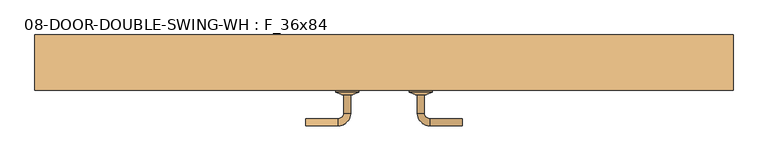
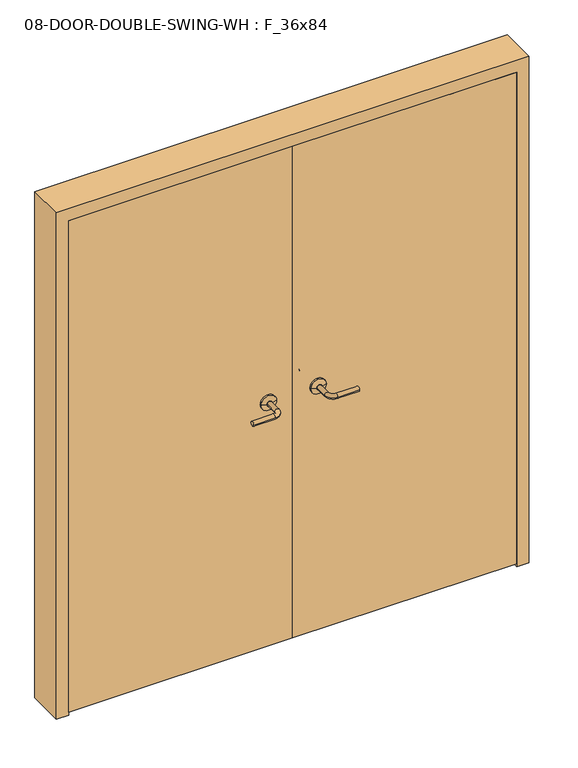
"""IFC4 building model written with IfcOpenShell, lengths in millimetres: door geometry, 08-DOOR-DOUBLE-SWING-WH : F_36x84."""

from ifc_helpers import new_model, si_unit, point, frame, origin, place, context, project, spatial, polyline, circle_curve, ellipse_curve, trimmed, outline, extrude, source, transform, mapped, element, save
from ifc_brep_helpers import plane_surface, cylinder_surface, revolved_surface, advanced_brep


def door_08_door_double_swing_wh_f_36x84_ce0bac59(model_context):
    return source(origin(), model_context, "Body", "SolidModel", [
        advanced_brep(
        [(129.4903202, -19.05, 1066.8), (110.4403202, -19.05, 1066.8), (110.4403202, 31.75, 1066.8), (129.4903202, 31.75, 1066.8), (145.3653202, 47.625, 1066.8), (145.3653202, 66.675, 1066.8), (234.2653202, 47.625, 1066.8), (234.2653202, 66.675, 1066.8)],
        [
            (0, 1, circle_curve(frame((119.9653202, -19.05, 1066.8), z_axis=(0.0, -1.0, 0.0), x_axis=(-1.0, 0.0, 0.0)), 9.525)),
            (1, 0, circle_curve(frame((119.9653202, -19.05, 1066.8), z_axis=(0.0, -1.0, 0.0), x_axis=(-1.0, 0.0, 0.0)), 9.525)),
            (1, 2),
            (2, 3, circle_curve(frame((119.9653202, 31.75, 1066.8), z_axis=(0.0, -1.0, 0.0), x_axis=(-1.0, 0.0, 0.0)), 9.525)),
            (3, 0),
            (3, 2, circle_curve(frame((119.9653202, 31.75, 1066.8), z_axis=(0.0, -1.0, 0.0), x_axis=(-1.0, 0.0, 0.0)), 9.525)),
            (4, 3, circle_curve(frame((145.3653202, 31.75, 1066.8), z_axis=(0.0, 0.0, 1.0), x_axis=(-1.0, 0.0, 0.0)), 15.875)),
            (2, 5, circle_curve(frame((145.3653202, 31.75, 1066.8), z_axis=(0.0, 0.0, -1.0), x_axis=(-1.0, 0.0, 0.0)), 34.925)),
            (5, 4, circle_curve(frame((145.3653202, 57.15, 1066.8), z_axis=(-1.0, 0.0, 0.0), x_axis=(0.0, 1.0, 0.0)), 9.525)),
            (4, 5, circle_curve(frame((145.3653202, 57.15, 1066.8), z_axis=(-1.0, 0.0, 0.0), x_axis=(0.0, 1.0, 0.0)), 9.525)),
            (6, 7, circle_curve(frame((234.2653202, 57.15, 1066.8), z_axis=(1.0, 0.0, 0.0), x_axis=(0.0, 1.0, 0.0)), 9.525)),
            (7, 6, circle_curve(frame((234.2653202, 57.15, 1066.8), z_axis=(1.0, 0.0, 0.0), x_axis=(0.0, 1.0, 0.0)), 9.525)),
            (5, 7),
            (6, 4),
        ],
        [
            plane_surface(frame((119.9653202, -19.05, 1066.8), z_axis=(0.0, -1.0, 0.0), x_axis=(0.0, 0.0, 1.0))),
            cylinder_surface(frame((119.9653202, -19.05, 1066.8), z_axis=(0.0, -1.0, 0.0), x_axis=(-1.0, 0.0, 0.0)), 9.525),
            revolved_surface(trimmed(ellipse_curve(frame((119.9653202, 31.75, 1066.8), z_axis=(0.0, -1.0, 0.0), x_axis=(-1.0, 0.0, 0.0)), 9.525, 9.525), [point((110.4403202, 31.75, 1066.8))], [point((129.4903202, 31.75, 1066.8))], True, "CARTESIAN"), (145.3653202, 31.75, 1066.8), (0.0, 0.0, -1.0)),
            revolved_surface(trimmed(ellipse_curve(frame((119.9653202, 31.75, 1066.8), z_axis=(0.0, -1.0, 0.0), x_axis=(-1.0, 0.0, 0.0)), 9.525, 9.525), [point((129.4903202, 31.75, 1066.8))], [point((110.4403202, 31.75, 1066.8))], True, "CARTESIAN"), (145.3653202, 31.75, 1066.8), (0.0, 0.0, -1.0)),
            plane_surface(frame((234.2653202, 57.15, 1066.8), z_axis=(1.0, 0.0, 0.0), x_axis=(0.0, 0.0, 1.0))),
            cylinder_surface(frame((145.3653202, 57.15, 1066.8), z_axis=(-1.0, 0.0, 0.0), x_axis=(0.0, 1.0, 0.0)), 9.525),
        ],
        [
            (0, [[1, 2]]),
            (1, [[-2, 3, 4, 5]]),
            (1, [[-1, -5, 6, -3]]),
            (2, [[7, -4, 8, 9]]),
            (3, [[-8, -6, -7, 10]]),
            (4, [[11, 12]]),
            (5, [[-9, 13, -11, 14]]),
            (5, [[-10, -14, -12, -13]]),
        ],
    ),
        advanced_brep(
        [(119.9653202, -31.75, 1066.8), (88.2153202, -31.75, 1066.8), (151.7153202, -31.75, 1066.8), (88.2153202, -25.4, 1066.8), (151.7153202, -25.4, 1066.8), (107.2653202, -19.05, 1066.8), (132.6653202, -19.05, 1066.8), (119.9653202, -19.05, 1066.8)],
        [
            (0, 1),
            (1, 2, circle_curve(frame((119.9653202, -31.75, 1066.8), z_axis=(0.0, -1.0, 0.0), x_axis=(-1.0, 0.0, 0.0)), 31.75)),
            (2, 0),
            (2, 1, circle_curve(frame((119.9653202, -31.75, 1066.8), z_axis=(0.0, -1.0, 0.0), x_axis=(-1.0, 0.0, 0.0)), 31.75)),
            (1, 3),
            (3, 4, circle_curve(frame((119.9653202, -25.4, 1066.8), z_axis=(0.0, -1.0, 0.0), x_axis=(-1.0, 0.0, 0.0)), 31.75)),
            (4, 2),
            (4, 3, circle_curve(frame((119.9653202, -25.4, 1066.8), z_axis=(0.0, -1.0, 0.0), x_axis=(-1.0, 0.0, 0.0)), 31.75)),
            (3, 5),
            (5, 6, circle_curve(frame((119.9653202, -19.05, 1066.8), z_axis=(0.0, -1.0, 0.0), x_axis=(-1.0, 0.0, 0.0)), 12.7)),
            (6, 4),
            (6, 5, circle_curve(frame((119.9653202, -19.05, 1066.8), z_axis=(0.0, -1.0, 0.0), x_axis=(-1.0, 0.0, 0.0)), 12.7)),
            (5, 7),
            (7, 6),
        ],
        [
            plane_surface(frame((119.9653202, -31.75, 1066.8), z_axis=(0.0, -1.0, 0.0), x_axis=(-1.0, 0.0, 0.0))),
            cylinder_surface(frame((119.9653202, -22.1418504, 1066.8), z_axis=(0.0, -1.0, 0.0), x_axis=(-1.0, 0.0, 0.0)), 31.75),
            revolved_surface(polyline([(107.2653202, -19.05, 1066.8), (88.2153202, -25.4, 1066.8)]), (119.9653202, -22.1418504, 1066.8), (0.0, -1.0, 0.0)),
            plane_surface(frame((119.9653202, -19.05, 1066.8), z_axis=(0.0, 1.0, 0.0), x_axis=(-1.0, 0.0, 0.0))),
        ],
        [
            (0, [[1, 2, 3]]),
            (0, [[-3, 4, -1]]),
            (1, [[-2, 5, 6, 7]]),
            (1, [[-4, -7, 8, -5]]),
            (2, [[-6, 9, 10, 11]]),
            (2, [[-8, -11, 12, -9]]),
            (3, [[-10, 13, 14]]),
            (3, [[-12, -14, -13]]),
        ],
    ),
        advanced_brep(
        [(-92.7596798, -19.05, 1066.8), (-73.7096798, -19.05, 1066.8), (-92.7596798, 31.75, 1066.8), (-73.7096798, 31.75, 1066.8), (-108.6346798, 47.625, 1066.8), (-108.6346798, 66.675, 1066.8), (-197.5346798, 47.625, 1066.8), (-197.5346798, 66.675, 1066.8)],
        [
            (0, 1, circle_curve(frame((-83.2346798, -19.05, 1066.8), z_axis=(0.0, -1.0, 0.0), x_axis=(1.0, 0.0, 0.0)), 9.525)),
            (1, 0, circle_curve(frame((-83.2346798, -19.05, 1066.8), z_axis=(0.0, -1.0, 0.0), x_axis=(1.0, 0.0, 0.0)), 9.525)),
            (0, 2),
            (2, 3, circle_curve(frame((-83.2346798, 31.75, 1066.8), z_axis=(0.0, -1.0, 0.0), x_axis=(1.0, 0.0, 0.0)), 9.525)),
            (3, 1),
            (3, 2, circle_curve(frame((-83.2346798, 31.75, 1066.8), z_axis=(0.0, -1.0, 0.0), x_axis=(1.0, 0.0, 0.0)), 9.525)),
            (4, 5, circle_curve(frame((-108.6346798, 57.15, 1066.8), z_axis=(1.0, 0.0, 0.0), x_axis=(0.0, 1.0, 0.0)), 9.525)),
            (5, 3, circle_curve(frame((-108.6346798, 31.75, 1066.8), z_axis=(0.0, 0.0, -1.0), x_axis=(1.0, 0.0, 0.0)), 34.925)),
            (2, 4, circle_curve(frame((-108.6346798, 31.75, 1066.8), z_axis=(0.0, 0.0, 1.0), x_axis=(1.0, 0.0, 0.0)), 15.875)),
            (5, 4, circle_curve(frame((-108.6346798, 57.15, 1066.8), z_axis=(1.0, 0.0, 0.0), x_axis=(0.0, 1.0, 0.0)), 9.525)),
            (6, 7, circle_curve(frame((-197.5346798, 57.15, 1066.8), z_axis=(-1.0, 0.0, 0.0), x_axis=(0.0, 1.0, 0.0)), 9.525)),
            (7, 6, circle_curve(frame((-197.5346798, 57.15, 1066.8), z_axis=(-1.0, 0.0, 0.0), x_axis=(0.0, 1.0, 0.0)), 9.525)),
            (4, 6),
            (7, 5),
        ],
        [
            plane_surface(frame((-83.2346798, -19.05, 1066.8), z_axis=(0.0, -1.0, 0.0), x_axis=(0.0, 0.0, 1.0))),
            cylinder_surface(frame((-83.2346798, -19.05, 1066.8), z_axis=(0.0, -1.0, 0.0), x_axis=(1.0, 0.0, 0.0)), 9.525),
            revolved_surface(trimmed(ellipse_curve(frame((-83.2346798, 31.75, 1066.8), z_axis=(0.0, 1.0, 0.0), x_axis=(1.0, 0.0, 0.0)), 9.525, 9.525), [point((-73.7096798, 31.75, 1066.8))], [point((-92.7596798, 31.75, 1066.8))], True, "CARTESIAN"), (-108.6346798, 31.75, 1066.8), (0.0, 0.0, -1.0)),
            revolved_surface(trimmed(ellipse_curve(frame((-83.2346798, 31.75, 1066.8), z_axis=(0.0, 1.0, 0.0), x_axis=(1.0, 0.0, 0.0)), 9.525, 9.525), [point((-92.7596798, 31.75, 1066.8))], [point((-73.7096798, 31.75, 1066.8))], True, "CARTESIAN"), (-108.6346798, 31.75, 1066.8), (0.0, 0.0, -1.0)),
            plane_surface(frame((-197.5346798, 57.15, 1066.8), z_axis=(-1.0, 0.0, 0.0), x_axis=(0.0, 0.0, 1.0))),
            cylinder_surface(frame((-108.6346798, 57.15, 1066.8), z_axis=(1.0, 0.0, 0.0), x_axis=(0.0, 1.0, 0.0)), 9.525),
        ],
        [
            (0, [[1, 2]]),
            (1, [[3, 4, 5, -1]]),
            (1, [[-5, 6, -3, -2]]),
            (2, [[7, 8, -4, 9]]),
            (3, [[10, -9, -6, -8]]),
            (4, [[11, 12]]),
            (5, [[13, -12, 14, -7]]),
            (5, [[-14, -11, -13, -10]]),
        ],
    ),
        advanced_brep(
        [(-83.2346798, -31.75, 1066.8), (-114.9846798, -31.75, 1066.8), (-51.4846798, -31.75, 1066.8), (-114.9846798, -25.4, 1066.8), (-51.4846798, -25.4, 1066.8), (-95.9346798, -19.05, 1066.8), (-70.5346798, -19.05, 1066.8), (-83.2346798, -19.05, 1066.8)],
        [
            (0, 1),
            (1, 2, circle_curve(frame((-83.2346798, -31.75, 1066.8), z_axis=(0.0, -1.0, 0.0), x_axis=(1.0, 0.0, 0.0)), 31.75)),
            (2, 0),
            (2, 1, circle_curve(frame((-83.2346798, -31.75, 1066.8), z_axis=(0.0, -1.0, 0.0), x_axis=(1.0, 0.0, 0.0)), 31.75)),
            (1, 3),
            (3, 4, circle_curve(frame((-83.2346798, -25.4, 1066.8), z_axis=(0.0, -1.0, 0.0), x_axis=(1.0, 0.0, 0.0)), 31.75)),
            (4, 2),
            (4, 3, circle_curve(frame((-83.2346798, -25.4, 1066.8), z_axis=(0.0, -1.0, 0.0), x_axis=(1.0, 0.0, 0.0)), 31.75)),
            (3, 5),
            (5, 6, circle_curve(frame((-83.2346798, -19.05, 1066.8), z_axis=(0.0, -1.0, 0.0), x_axis=(1.0, 0.0, 0.0)), 12.7)),
            (6, 4),
            (6, 5, circle_curve(frame((-83.2346798, -19.05, 1066.8), z_axis=(0.0, -1.0, 0.0), x_axis=(1.0, 0.0, 0.0)), 12.7)),
            (5, 7),
            (7, 6),
        ],
        [
            plane_surface(frame((-83.2346798, -31.75, 1066.8), z_axis=(0.0, -1.0, 0.0), x_axis=(1.0, 0.0, 0.0))),
            cylinder_surface(frame((-83.2346798, -22.1418504, 1066.8), z_axis=(0.0, -1.0, 0.0), x_axis=(1.0, 0.0, 0.0)), 31.75),
            revolved_surface(polyline([(-70.5346798, -19.05, 1066.8), (-51.4846798, -25.4, 1066.8)]), (-83.2346798, -22.1418504, 1066.8), (0.0, -1.0, 0.0)),
            plane_surface(frame((-83.2346798, -19.05, 1066.8), z_axis=(0.0, 1.0, 0.0), x_axis=(1.0, 0.0, 0.0))),
        ],
        [
            (0, [[1, 2, 3]]),
            (0, [[-3, 4, -1]]),
            (1, [[5, 6, 7, -2]]),
            (1, [[-7, 8, -5, -4]]),
            (2, [[9, 10, 11, -6]]),
            (2, [[-11, 12, -9, -8]]),
            (3, [[13, 14, -10]]),
            (3, [[-14, -13, -12]]),
        ],
    ),
        advanced_brep(
        [(110.4403202, -88.9, 1066.8), (129.4903202, -88.9, 1066.8), (110.4403202, -139.7, 1066.8), (129.4903202, -139.7, 1066.8), (145.3653202, -155.575, 1066.8), (145.3653202, -174.625, 1066.8), (234.2653202, -174.625, 1066.8), (234.2653202, -155.575, 1066.8)],
        [
            (0, 1, circle_curve(frame((119.9653202, -88.9, 1066.8), z_axis=(0.0, 1.0, 0.0), x_axis=(1.0, 0.0, 0.0)), 9.525)),
            (1, 0, circle_curve(frame((119.9653202, -88.9, 1066.8), z_axis=(0.0, 1.0, 0.0), x_axis=(1.0, 0.0, 0.0)), 9.525)),
            (0, 2),
            (2, 3, circle_curve(frame((119.9653202, -139.7, 1066.8), z_axis=(0.0, 1.0, 0.0), x_axis=(1.0, 0.0, 0.0)), 9.525)),
            (3, 1),
            (3, 2, circle_curve(frame((119.9653202, -139.7, 1066.8), z_axis=(0.0, 1.0, 0.0), x_axis=(1.0, 0.0, 0.0)), 9.525)),
            (4, 3, circle_curve(frame((145.3653202, -139.7, 1066.8), z_axis=(0.0, 0.0, -1.0), x_axis=(-1.0, 0.0, 0.0)), 15.875)),
            (2, 5, circle_curve(frame((145.3653202, -139.7, 1066.8), z_axis=(0.0, 0.0, 1.0), x_axis=(-1.0, 0.0, 0.0)), 34.925)),
            (5, 4, circle_curve(frame((145.3653202, -165.1, 1066.8), z_axis=(-1.0, 0.0, 0.0), x_axis=(0.0, 1.0, 0.0)), 9.525)),
            (4, 5, circle_curve(frame((145.3653202, -165.1, 1066.8), z_axis=(-1.0, 0.0, 0.0), x_axis=(0.0, 1.0, 0.0)), 9.525)),
            (6, 7, circle_curve(frame((234.2653202, -165.1, 1066.8), z_axis=(1.0, 0.0, 0.0), x_axis=(0.0, 1.0, 0.0)), 9.525)),
            (7, 6, circle_curve(frame((234.2653202, -165.1, 1066.8), z_axis=(1.0, 0.0, 0.0), x_axis=(0.0, 1.0, 0.0)), 9.525)),
            (5, 6),
            (7, 4),
        ],
        [
            plane_surface(frame((119.9653202, -88.9, 1066.8), z_axis=(0.0, 1.0, 0.0), x_axis=(0.0, 0.0, 1.0))),
            cylinder_surface(frame((119.9653202, -88.9, 1066.8), z_axis=(0.0, 1.0, 0.0), x_axis=(1.0, 0.0, 0.0)), 9.525),
            revolved_surface(trimmed(ellipse_curve(frame((119.9653202, -139.7, 1066.8), z_axis=(0.0, 1.0, 0.0), x_axis=(1.0, 0.0, 0.0)), 9.525, 9.525), [point((110.4403202, -139.7, 1066.8))], [point((129.4903202, -139.7, 1066.8))], True, "CARTESIAN"), (145.3653202, -139.7, 1066.8), (0.0, 0.0, 1.0)),
            revolved_surface(trimmed(ellipse_curve(frame((119.9653202, -139.7, 1066.8), z_axis=(0.0, 1.0, 0.0), x_axis=(1.0, 0.0, 0.0)), 9.525, 9.525), [point((129.4903202, -139.7, 1066.8))], [point((110.4403202, -139.7, 1066.8))], True, "CARTESIAN"), (145.3653202, -139.7, 1066.8), (0.0, 0.0, 1.0)),
            plane_surface(frame((234.2653202, -165.1, 1066.8), z_axis=(1.0, 0.0, 0.0), x_axis=(0.0, 0.0, 1.0))),
            cylinder_surface(frame((145.3653202, -165.1, 1066.8), z_axis=(-1.0, 0.0, 0.0), x_axis=(0.0, 1.0, 0.0)), 9.525),
        ],
        [
            (0, [[1, 2]]),
            (1, [[-1, 3, 4, 5]]),
            (1, [[-2, -5, 6, -3]]),
            (2, [[7, -4, 8, 9]]),
            (3, [[-8, -6, -7, 10]]),
            (4, [[11, 12]]),
            (5, [[-9, 13, -12, 14]]),
            (5, [[-10, -14, -11, -13]]),
        ],
    ),
        advanced_brep(
        [(151.7153202, -76.2, 1066.8), (88.2153202, -76.2, 1066.8), (119.9653202, -76.2, 1066.8), (151.7153202, -82.55, 1066.8), (88.2153202, -82.55, 1066.8), (132.6653202, -88.9, 1066.8), (107.2653202, -88.9, 1066.8), (119.9653202, -88.9, 1066.8)],
        [
            (0, 1, circle_curve(frame((119.9653202, -76.2, 1066.8), z_axis=(0.0, 1.0, 0.0), x_axis=(-1.0, 0.0, 0.0)), 31.75)),
            (1, 2),
            (2, 0),
            (1, 0, circle_curve(frame((119.9653202, -76.2, 1066.8), z_axis=(0.0, 1.0, 0.0), x_axis=(-1.0, 0.0, 0.0)), 31.75)),
            (3, 4, circle_curve(frame((119.9653202, -82.55, 1066.8), z_axis=(0.0, 1.0, 0.0), x_axis=(-1.0, 0.0, 0.0)), 31.75)),
            (4, 1),
            (0, 3),
            (4, 3, circle_curve(frame((119.9653202, -82.55, 1066.8), z_axis=(0.0, 1.0, 0.0), x_axis=(-1.0, 0.0, 0.0)), 31.75)),
            (5, 6, circle_curve(frame((119.9653202, -88.9, 1066.8), z_axis=(0.0, 1.0, 0.0), x_axis=(-1.0, 0.0, 0.0)), 12.7)),
            (6, 4),
            (3, 5),
            (6, 5, circle_curve(frame((119.9653202, -88.9, 1066.8), z_axis=(0.0, 1.0, 0.0), x_axis=(-1.0, 0.0, 0.0)), 12.7)),
            (7, 6),
            (5, 7),
        ],
        [
            plane_surface(frame((119.9653202, -76.2, 1066.8), z_axis=(0.0, 1.0, 0.0), x_axis=(-1.0, 0.0, 0.0))),
            cylinder_surface(frame((119.9653202, -85.8081496, 1066.8), z_axis=(0.0, -1.0, 0.0), x_axis=(-1.0, 0.0, 0.0)), 31.75),
            revolved_surface(polyline([(88.2153202, -82.55, 1066.8), (107.2653202, -88.9, 1066.8)]), (119.9653202, -85.8081496, 1066.8), (0.0, -1.0, 0.0)),
            plane_surface(frame((119.9653202, -88.9, 1066.8), z_axis=(0.0, -1.0, 0.0), x_axis=(-1.0, 0.0, 0.0))),
        ],
        [
            (0, [[1, 2, 3]]),
            (0, [[4, -3, -2]]),
            (1, [[5, 6, -1, 7]]),
            (1, [[8, -7, -4, -6]]),
            (2, [[9, 10, -5, 11]]),
            (2, [[12, -11, -8, -10]]),
            (3, [[13, -9, 14]]),
            (3, [[-14, -12, -13]]),
        ],
    ),
        advanced_brep(
        [(-73.7096798, -88.9, 1066.8), (-92.7596798, -88.9, 1066.8), (-92.7596798, -139.7, 1066.8), (-73.7096798, -139.7, 1066.8), (-108.6346798, -155.575, 1066.8), (-108.6346798, -174.625, 1066.8), (-197.5346798, -174.625, 1066.8), (-197.5346798, -155.575, 1066.8)],
        [
            (0, 1, circle_curve(frame((-83.2346798, -88.9, 1066.8), z_axis=(0.0, 1.0, 0.0), x_axis=(-1.0, 0.0, 0.0)), 9.525)),
            (1, 0, circle_curve(frame((-83.2346798, -88.9, 1066.8), z_axis=(0.0, 1.0, 0.0), x_axis=(-1.0, 0.0, 0.0)), 9.525)),
            (1, 2),
            (2, 3, circle_curve(frame((-83.2346798, -139.7, 1066.8), z_axis=(0.0, 1.0, 0.0), x_axis=(-1.0, 0.0, 0.0)), 9.525)),
            (3, 0),
            (3, 2, circle_curve(frame((-83.2346798, -139.7, 1066.8), z_axis=(0.0, 1.0, 0.0), x_axis=(-1.0, 0.0, 0.0)), 9.525)),
            (4, 5, circle_curve(frame((-108.6346798, -165.1, 1066.8), z_axis=(1.0, 0.0, 0.0), x_axis=(0.0, 1.0, 0.0)), 9.525)),
            (5, 3, circle_curve(frame((-108.6346798, -139.7, 1066.8), z_axis=(0.0, 0.0, 1.0), x_axis=(1.0, 0.0, 0.0)), 34.925)),
            (2, 4, circle_curve(frame((-108.6346798, -139.7, 1066.8), z_axis=(0.0, 0.0, -1.0), x_axis=(1.0, 0.0, 0.0)), 15.875)),
            (5, 4, circle_curve(frame((-108.6346798, -165.1, 1066.8), z_axis=(1.0, 0.0, 0.0), x_axis=(0.0, 1.0, 0.0)), 9.525)),
            (6, 7, circle_curve(frame((-197.5346798, -165.1, 1066.8), z_axis=(-1.0, 0.0, 0.0), x_axis=(0.0, 1.0, 0.0)), 9.525)),
            (7, 6, circle_curve(frame((-197.5346798, -165.1, 1066.8), z_axis=(-1.0, 0.0, 0.0), x_axis=(0.0, 1.0, 0.0)), 9.525)),
            (4, 7),
            (6, 5),
        ],
        [
            plane_surface(frame((-83.2346798, -88.9, 1066.8), z_axis=(0.0, 1.0, 0.0), x_axis=(0.0, 0.0, 1.0))),
            cylinder_surface(frame((-83.2346798, -88.9, 1066.8), z_axis=(0.0, 1.0, 0.0), x_axis=(-1.0, 0.0, 0.0)), 9.525),
            revolved_surface(trimmed(ellipse_curve(frame((-83.2346798, -139.7, 1066.8), z_axis=(0.0, -1.0, 0.0), x_axis=(-1.0, 0.0, 0.0)), 9.525, 9.525), [point((-73.7096798, -139.7, 1066.8))], [point((-92.7596798, -139.7, 1066.8))], True, "CARTESIAN"), (-108.6346798, -139.7, 1066.8), (0.0, 0.0, 1.0)),
            revolved_surface(trimmed(ellipse_curve(frame((-83.2346798, -139.7, 1066.8), z_axis=(0.0, -1.0, 0.0), x_axis=(-1.0, 0.0, 0.0)), 9.525, 9.525), [point((-92.7596798, -139.7, 1066.8))], [point((-73.7096798, -139.7, 1066.8))], True, "CARTESIAN"), (-108.6346798, -139.7, 1066.8), (0.0, 0.0, 1.0)),
            plane_surface(frame((-197.5346798, -165.1, 1066.8), z_axis=(-1.0, 0.0, 0.0), x_axis=(0.0, 0.0, 1.0))),
            cylinder_surface(frame((-108.6346798, -165.1, 1066.8), z_axis=(1.0, 0.0, 0.0), x_axis=(0.0, 1.0, 0.0)), 9.525),
        ],
        [
            (0, [[1, 2]]),
            (1, [[3, 4, 5, -2]]),
            (1, [[-5, 6, -3, -1]]),
            (2, [[7, 8, -4, 9]]),
            (3, [[10, -9, -6, -8]]),
            (4, [[11, 12]]),
            (5, [[13, -11, 14, -7]]),
            (5, [[-14, -12, -13, -10]]),
        ],
    ),
        advanced_brep(
        [(-114.9846798, -76.2, 1066.8), (-83.2346798, -76.2, 1066.8), (-51.4846798, -76.2, 1066.8), (-114.9846798, -82.55, 1066.8), (-51.4846798, -82.55, 1066.8), (-95.9346798, -88.9, 1066.8), (-70.5346798, -88.9, 1066.8), (-83.2346798, -88.9, 1066.8)],
        [
            (0, 1),
            (1, 2),
            (2, 0, circle_curve(frame((-83.2346798, -76.2, 1066.8), z_axis=(0.0, 1.0, 0.0), x_axis=(1.0, 0.0, 0.0)), 31.75)),
            (0, 2, circle_curve(frame((-83.2346798, -76.2, 1066.8), z_axis=(0.0, 1.0, 0.0), x_axis=(1.0, 0.0, 0.0)), 31.75)),
            (3, 0),
            (2, 4),
            (4, 3, circle_curve(frame((-83.2346798, -82.55, 1066.8), z_axis=(0.0, 1.0, 0.0), x_axis=(1.0, 0.0, 0.0)), 31.75)),
            (3, 4, circle_curve(frame((-83.2346798, -82.55, 1066.8), z_axis=(0.0, 1.0, 0.0), x_axis=(1.0, 0.0, 0.0)), 31.75)),
            (5, 3),
            (4, 6),
            (6, 5, circle_curve(frame((-83.2346798, -88.9, 1066.8), z_axis=(0.0, 1.0, 0.0), x_axis=(1.0, 0.0, 0.0)), 12.7)),
            (5, 6, circle_curve(frame((-83.2346798, -88.9, 1066.8), z_axis=(0.0, 1.0, 0.0), x_axis=(1.0, 0.0, 0.0)), 12.7)),
            (7, 5),
            (6, 7),
        ],
        [
            plane_surface(frame((-83.2346798, -76.2, 1066.8), z_axis=(0.0, 1.0, 0.0), x_axis=(1.0, 0.0, 0.0))),
            cylinder_surface(frame((-83.2346798, -85.8081496, 1066.8), z_axis=(0.0, -1.0, 0.0), x_axis=(1.0, 0.0, 0.0)), 31.75),
            revolved_surface(polyline([(-51.4846798, -82.55, 1066.8), (-70.5346798, -88.9, 1066.8)]), (-83.2346798, -85.8081496, 1066.8), (0.0, -1.0, 0.0)),
            plane_surface(frame((-83.2346798, -88.9, 1066.8), z_axis=(0.0, -1.0, 0.0), x_axis=(1.0, 0.0, 0.0))),
        ],
        [
            (0, [[1, 2, 3]]),
            (0, [[-2, -1, 4]]),
            (1, [[5, -3, 6, 7]]),
            (1, [[-6, -4, -5, 8]]),
            (2, [[9, -7, 10, 11]]),
            (2, [[-10, -8, -9, 12]]),
            (3, [[13, -11, 14]]),
            (3, [[-14, -12, -13]]),
        ],
    ),
        extrude(outline(polyline([(18.3653202, -31.75), (932.7653202, -31.75), (932.7653202, -76.2), (18.3653202, -76.2), (18.3653202, -31.75)])), frame((0.0, 0.0, 12.7), z_axis=(0.0, 0.0, 1.0), x_axis=(1.0, 0.0, 0.0)), (0.0, 0.0, 1.0), 2120.9),
        extrude(outline(polyline([(18.3653202, -31.75), (18.3653202, -76.2), (-896.0346798, -76.2), (-896.0346798, -31.75), (18.3653202, -31.75)])), frame((0.0, 0.0, 12.7), z_axis=(0.0, 0.0, 1.0), x_axis=(1.0, 0.0, 0.0)), (0.0, 0.0, 1.0), 2120.9),
        extrude(outline(polyline([(0.0, 983.5653202), (2184.4, 983.5653202), (2184.4, -946.8346798), (0.0, -946.8346798), (0.0, -896.0346798), (2133.6, -896.0346798), (2133.6, 932.7653202), (0.0, 932.7653202), (0.0, 983.5653202)])), frame((0.0, -76.2, 0.0), z_axis=(0.0, 1.0, 0.0), x_axis=(0.0, 0.0, 1.0)), (0.0, 0.0, 1.0), 152.4),
    ])


if __name__ == "__main__":
    model = new_model("IFC4")
    model_context = context("Model", 3, world=origin())
    ifc_project = project(units=[si_unit("LENGTHUNIT", "METRE", prefix="MILLI")], contexts=[model_context])
    site = spatial("IfcSite", under=ifc_project)
    building = spatial("IfcBuilding", under=site)
    placement = place(None, origin())
    door_08_door_double_swing_wh_f_36x84_shape = door_08_door_double_swing_wh_f_36x84_ce0bac59(model_context)
    element("IfcDoor", 1, ObjectType="08-DOOR-DOUBLE-SWING-WH : F_36x84", at=placement, inside=building, context=model_context, shape_type="MappedRepresentation", body=[
        mapped(door_08_door_double_swing_wh_f_36x84_shape, transform((0.0, 0.0, 0.0), x_axis=(1.0, 0.0, 0.0), y_axis=(0.0, 1.0, 0.0), z_axis=(0.0, 0.0, 1.0))),
    ])
    save(model, "model.ifc")
